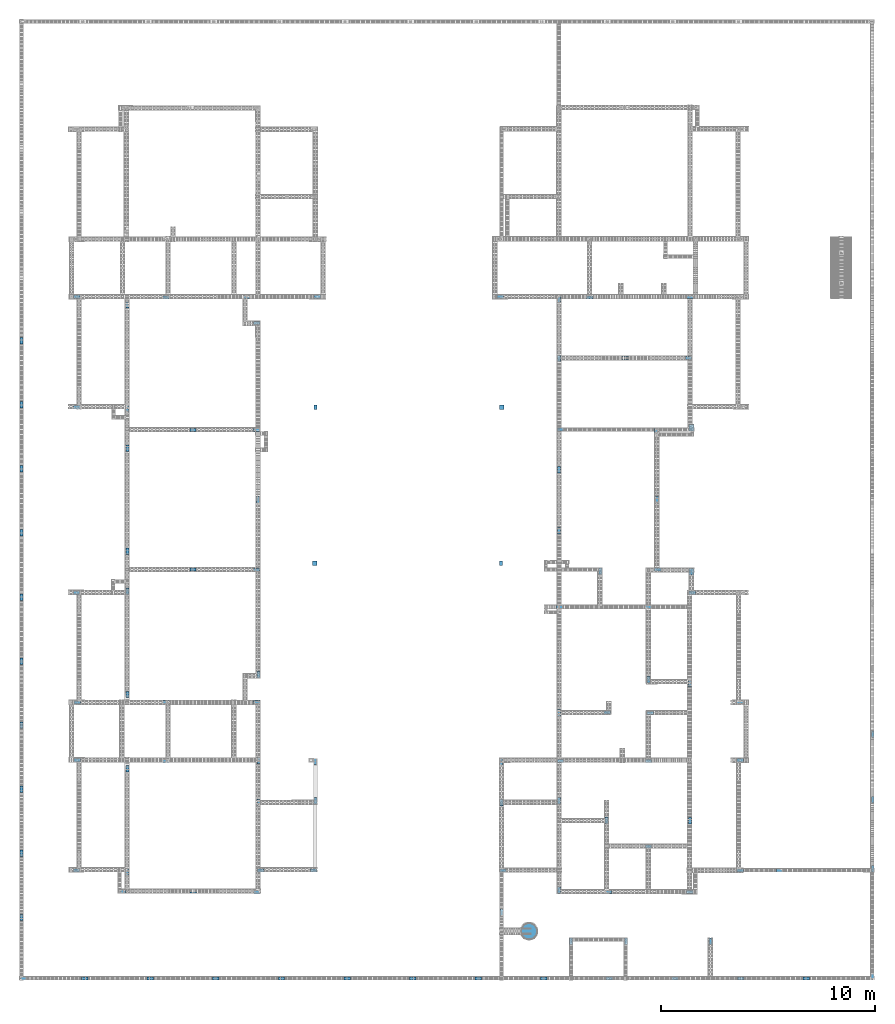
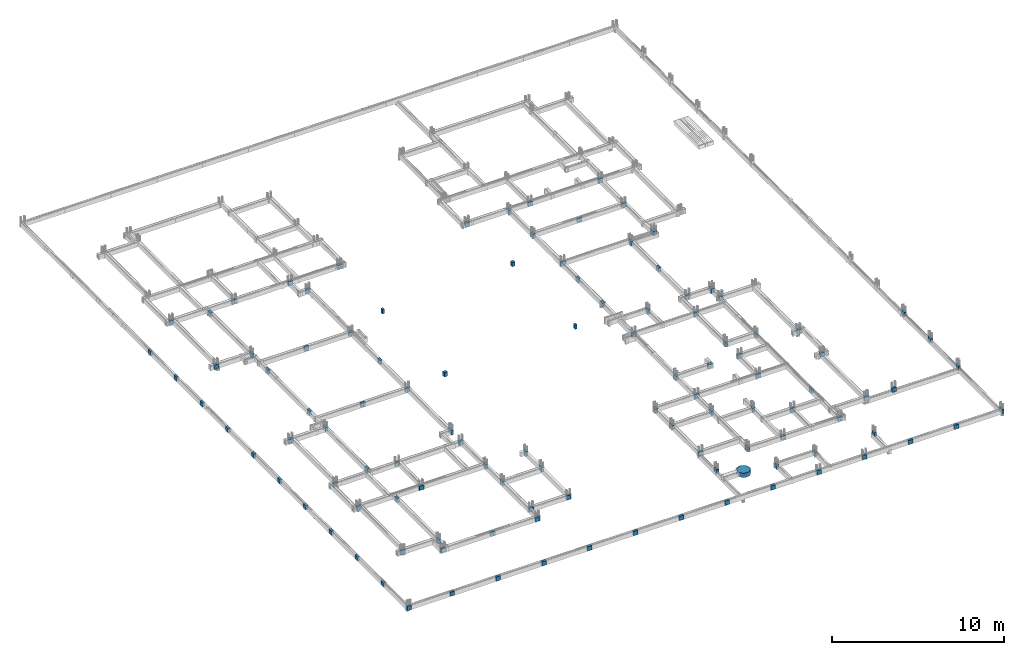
# One storey, part 1 of 150: 112 columns.
"""IFC4 building model written with IfcOpenShell, lengths in centimetres."""

import ifcopenshell
import ifcopenshell.guid

model = None  # the IFC model being written
_history = None  # IfcOwnerHistory: only IFC2X3 demands one
_inside = {}  # id of a spatial element -> (the spatial element, [elements in it])
_under = {}  # id of a project, library or spatial element -> (it, [spatial elements below it])
_declared = {}  # id of a project -> (the project, [libraries it declares])
_typed = {}  # id of a type object -> (the type object, [elements of that type])
_made_of = {}  # id of a material, layer set ... -> (it, [elements and type objects made of it])


def new_model(schema):
    """Start an empty IFC model of exactly this schema.

    Asked for "IFC4X3", IfcOpenShell would pick the latest addendum, in which some entities
    have other attributes; the version numbers below select the first issue.
    IFC2X3 requires an IfcOwnerHistory on every rooted entity: one is made here for all.
    """
    global model, _history
    if schema == "IFC4X3":
        model = ifcopenshell.file(schema_version=(4, 3, 0, 0))
    else:
        model = ifcopenshell.file(schema=schema)
    _inside.clear()
    _under.clear()
    _declared.clear()
    _typed.clear()
    _made_of.clear()
    _history = None
    if model.schema == "IFC2X3":
        org = make("IfcOrganization", Name="unknown")
        user = make(
            "IfcPersonAndOrganization",
            ThePerson=make("IfcPerson", FamilyName="unknown"),
            TheOrganization=org,
        )
        app = make(
            "IfcApplication",
            ApplicationDeveloper=org,
            Version="unknown",
            ApplicationFullName="unknown",
            ApplicationIdentifier="unknown",
        )
        _history = make(
            "IfcOwnerHistory",
            OwningUser=user,
            OwningApplication=app,
            ChangeAction="ADDED",
            CreationDate=0,
        )
    return model


def make(cls, **values):
    """One entity of the class cls with the attributes given. An attribute that is None is left unset."""
    return model.create_entity(
        cls, **{name: value for name, value in values.items() if value is not None}
    )


def rooted(cls, **values):
    """An entity with a GlobalId (a new one), such as an element, a storey or a relation."""
    return make(cls, GlobalId=ifcopenshell.guid.new(), OwnerHistory=_history, **values)


def si_unit(unit_type, name, prefix=None):
    """IfcSIUnit, for example si_unit("LENGTHUNIT", "METRE", prefix="MILLI")."""
    return make("IfcSIUnit", UnitType=unit_type, Prefix=prefix, Name=name)


def derived_unit(unit_type, elements):
    """IfcDerivedUnit: a product of units, each with its exponent."""
    return make(
        "IfcDerivedUnit",
        Elements=[
            make("IfcDerivedUnitElement", Unit=unit, Exponent=power)
            for unit, power in elements
        ],
        UnitType=unit_type,
    )


def assignment(units):
    """IfcUnitAssignment: the units of a project."""
    return None if units is None else make("IfcUnitAssignment", Units=units)


def point(xyz):
    """IfcCartesianPoint."""
    return None if xyz is None else make("IfcCartesianPoint", Coordinates=xyz)


def direction(xyz):
    """IfcDirection."""
    return None if xyz is None else make("IfcDirection", DirectionRatios=xyz)


def frame(location, z_axis=None, x_axis=None):
    """IfcAxis2Placement3D, a coordinate frame: its origin and axes. An axis left out is left unset."""
    return make(
        "IfcAxis2Placement3D",
        Location=point(location),
        Axis=direction(z_axis),
        RefDirection=direction(x_axis),
    )


def frame_2d(location, x_axis=None):
    """IfcAxis2Placement2D, a coordinate frame in the plane: its origin and x axis."""
    return make(
        "IfcAxis2Placement2D", Location=point(location), RefDirection=direction(x_axis)
    )


def origin_with_axes():
    """The frame at (0, 0, 0) with the z axis (0, 0, 1) and the x axis (1, 0, 0) written out."""
    return frame((0.0, 0.0, 0.0), z_axis=(0.0, 0.0, 1.0), x_axis=(1.0, 0.0, 0.0))


def origin_2d_with_axis():
    """The frame at (0, 0) in the plane with the x axis (1, 0) written out."""
    return frame_2d((0.0, 0.0), x_axis=(1.0, 0.0))


def place(relative_to, where):
    """IfcLocalPlacement: puts the frame where relative to a parent placement (None: the world)."""
    return make(
        "IfcLocalPlacement", PlacementRelTo=relative_to, RelativePlacement=where
    )


def context(
    kind, dimensions, precision=None, world=None, true_north=None, identifier=None
):
    """IfcGeometricRepresentationContext, for example the 3D "Model" context."""
    return make(
        "IfcGeometricRepresentationContext",
        ContextIdentifier=identifier,
        ContextType=kind,
        CoordinateSpaceDimension=dimensions,
        Precision=precision,
        WorldCoordinateSystem=world,
        TrueNorth=true_north,
    )


def project(units=None, contexts=None):
    """IfcProject with its units and contexts."""
    return rooted(
        "IfcProject",
        Name="project",
        RepresentationContexts=contexts,
        UnitsInContext=assignment(units),
    )


def spatial(cls, under=None, at=None, **own):
    """A site, building, storey or space (cls), placed at a placement, below another one or the project."""
    s = rooted(cls, ObjectPlacement=at, **own)
    if under is not None:
        _under.setdefault(under.id(), (under, []))[1].append(s)
    return s


def profile(cls, at=None, kind="AREA", **sizes):
    """A parametric profile (cls). Its sizes go by their IFC names, for example OverallWidth=200.0."""
    return make(cls, ProfileType=kind, Position=at, **sizes)


def rectangle(**sizes):
    """IfcRectangleProfileDef."""
    return profile("IfcRectangleProfileDef", **sizes)


def circle(**sizes):
    """IfcCircleProfileDef."""
    return profile("IfcCircleProfileDef", **sizes)


def extrude(swept, where, along, depth):
    """IfcExtrudedAreaSolid: the profile swept, set in the frame where, extruded along a direction by depth."""
    return make(
        "IfcExtrudedAreaSolid",
        SweptArea=swept,
        Position=where,
        ExtrudedDirection=direction(along),
        Depth=depth,
    )


def shape(context_of_items, identifier, shape_type, items):
    """IfcShapeRepresentation: the items that make up one representation, for example the "Body"."""
    return make(
        "IfcShapeRepresentation",
        ContextOfItems=context_of_items,
        RepresentationIdentifier=identifier,
        RepresentationType=shape_type,
        Items=items,
    )


def material(Name=None, Category=None):
    """IfcMaterial."""
    return make("IfcMaterial", Name=Name, Category=Category)


def made_of(thing, what):
    """Note that an element or type object is made of a material, layer set ...; save() writes the relation."""
    if what is not None:
        _made_of.setdefault(what.id(), (what, []))[1].append(thing)
    return thing


def element(
    cls,
    number,
    at=None,
    inside=None,
    cuts=None,
    type_object=None,
    material=None,
    context=None,
    identifier="Body",
    shape_type=None,
    held_by="IfcProductDefinitionShape",
    body=None,
    shapes=None,
    **own,
):
    """One element of the class cls, such as IfcWall. Its Tag is "e" and its number.

    at: its placement. inside: the storey or other place that contains it. cuts: it is an
    opening in that element (IfcRelVoidsElement). A single representation is given by context,
    identifier, shape_type and body (its items); several are given by shapes. held_by: the class
    of the entity that holds the representations. save() writes the other relations.
    """
    e = rooted(cls, Tag="e%d" % number, ObjectPlacement=at, **own)
    if body is not None:
        shapes = [shape(context, identifier, shape_type, body)]
    if shapes is not None:
        e.Representation = make(held_by, Representations=shapes)
    if inside is not None:
        _inside.setdefault(inside.id(), (inside, []))[1].append(e)
    if cuts is not None:
        rooted(
            "IfcRelVoidsElement", RelatingBuildingElement=cuts, RelatedOpeningElement=e
        )
    if type_object is not None:
        _typed.setdefault(type_object.id(), (type_object, []))[1].append(e)
    return made_of(e, material)


def aggregate(whole, parts):
    """IfcRelAggregates: a whole, such as a stair, and the parts it consists of."""
    return rooted("IfcRelAggregates", RelatingObject=whole, RelatedObjects=parts)


def save(model, path):
    """Write the relations noted so far, then the file.

    IfcRelAggregates (storeys below a building ...), IfcRelContainedInSpatialStructure (elements
    in a storey), IfcRelDefinesByType, IfcRelAssociatesMaterial and IfcRelDeclares: one each for
    every whole, place, type object, material and project.
    """
    for whole, parts in _under.values():
        aggregate(whole, parts)
    for where, things in _inside.values():
        rooted(
            "IfcRelContainedInSpatialStructure",
            RelatedElements=things,
            RelatingStructure=where,
        )
    for kind, things in _typed.values():
        rooted("IfcRelDefinesByType", RelatedObjects=things, RelatingType=kind)
    for what, things in _made_of.values():
        rooted("IfcRelAssociatesMaterial", RelatedObjects=things, RelatingMaterial=what)
    for by, libraries in _declared.values():
        rooted("IfcRelDeclares", RelatingContext=by, RelatedDefinitions=libraries)
    model.write(path)


model = new_model("IFC4")

# Units and contexts
model_context = context("Model", 3, precision=1e-05, world=origin_with_axes(), identifier="Body")
ifc_project = project(units=[si_unit("LENGTHUNIT", "METRE", prefix="CENTI"), si_unit("VOLUMEUNIT", "CUBIC_METRE"), si_unit("AREAUNIT", "SQUARE_METRE"), si_unit("POWERUNIT", "WATT"), si_unit("LUMINOUSFLUXUNIT", "LUMEN"), si_unit("ELECTRICCURRENTUNIT", "AMPERE"), si_unit("PRESSUREUNIT", "PASCAL", prefix="KILO"), si_unit("MASSUNIT", "GRAM", prefix="KILO"), si_unit("PLANEANGLEUNIT", "RADIAN"), derived_unit("VOLUMETRICFLOWRATEUNIT", [(si_unit("LENGTHUNIT", "METRE"), 3), (si_unit("TIMEUNIT", "SECOND"), -1)])], contexts=[model_context])

# Site, building, storey
site_placement = place(None, frame((-4000.0, 0.0, 0.0), z_axis=(0.0, 0.0, 1.0), x_axis=(1.0, 0.0, 0.0)))
site = spatial("IfcSite", under=ifc_project, at=site_placement, Name="PADRÃO")
building_placement = place(site_placement, frame((0.0, 0.0, -14.0)))
building = spatial("IfcBuilding", under=site, at=building_placement, Name="CRECHE PRÉ-ESCOLA TIPO 2")
placement = place(building_placement, origin_with_axes())
storey_placement = place(placement, frame((0.0, 0.0, 30.0), z_axis=(0.0, 0.0, 1.0), x_axis=(1.0, 0.0, 0.0)))
storey = spatial("IfcBuildingStorey", under=building, at=storey_placement, Name="VIGA BALDRAME", CompositionType="ELEMENT", Elevation=16.0)

# Columns
ifc_material = material(Name="Concreto")
for number, where, z_axis, x_axis, name in (
    (1, (8.5, 1494.5, 0.0), (0.0, 0.0, 1.0), (1.0, 0.0, 0.0), "P101"),
    (2, (1118.72, 1430.5, 0.0), (0.0, 0.0, 1.0), (1.0, 0.0, 0.0), "P102"),
    (3, (2943.24, 1406.51, 0.0), (0.0, 0.0, 1.0), (1.0, 0.0, 0.0), "P104"),
):
    element("IfcColumn", number, at=place(storey_placement, frame(where, z_axis=z_axis, x_axis=x_axis)), inside=storey, material=ifc_material, Name=name, context=model_context, shape_type="SolidModel", body=[
        extrude(rectangle(XDim=14.0, YDim=30.0, at=origin_2d_with_axis()), origin_with_axes(), (0.0, 0.0, -1.0), 30.0),
    ])
column_1_placement = place(storey_placement, frame((3138.5, 1389.52, 0.0), z_axis=(0.0, 0.0, 1.0), x_axis=(1.0, 0.0, 0.0)))
element("IfcColumn", 4, at=column_1_placement, inside=storey, material=ifc_material, Name="P105", context=model_context, shape_type="SolidModel", body=[
    extrude(rectangle(XDim=14.0, YDim=30.0, at=origin_2d_with_axis()), frame((0.0, 0.0, 0.0), z_axis=(0.0, 0.0, 1.0), x_axis=(-1.0, 0.0, 0.0)), (0.0, 0.0, -1.0), 30.0),
])
column_2_placement = place(storey_placement, frame((269.5, 1301.5, 0.0), z_axis=(0.0, 0.0, 1.0), x_axis=(1.0, 0.0, 0.0)))
element("IfcColumn", 5, at=column_2_placement, inside=storey, material=ifc_material, Name="P106", context=model_context, shape_type="SolidModel", body=[
    extrude(rectangle(XDim=14.0, YDim=30.0, at=origin_2d_with_axis()), frame((0.0, 0.0, 0.0), z_axis=(0.0, 0.0, 1.0), x_axis=(0.0, -1.0, 0.0)), (0.0, 0.0, -1.0), 30.0),
])
column_3_placement = place(storey_placement, frame((503.69, 1338.51, 0.0), z_axis=(0.0, 0.0, 1.0), x_axis=(1.0, 0.0, 0.0)))
element("IfcColumn", 6, at=column_3_placement, inside=storey, material=ifc_material, Name="P107", context=model_context, shape_type="SolidModel", body=[
    extrude(rectangle(XDim=14.0, YDim=30.0, at=origin_2d_with_axis()), origin_with_axes(), (0.0, 0.0, -1.0), 30.0),
])
column_4_placement = place(storey_placement, frame((685.0, 1302.5, 0.0), z_axis=(0.0, 0.0, 1.0), x_axis=(1.0, 0.0, 0.0)))
element("IfcColumn", 7, at=column_4_placement, inside=storey, material=ifc_material, Name="P108", context=model_context, shape_type="SolidModel", body=[
    extrude(rectangle(XDim=14.0, YDim=30.0, at=origin_2d_with_axis()), frame((0.0, 0.0, 0.0), z_axis=(0.0, 0.0, 1.0), x_axis=(0.0, -1.0, 0.0)), (0.0, 0.0, -1.0), 30.0),
])
column_5_placement = place(storey_placement, frame((1109.72, 1302.5, 0.0), z_axis=(0.0, 0.0, 1.0), x_axis=(1.0, 0.0, 0.0)))
element("IfcColumn", 8, at=column_5_placement, inside=storey, material=ifc_material, Name="P109", context=model_context, shape_type="SolidModel", body=[
    extrude(rectangle(XDim=14.0, YDim=30.0, at=origin_2d_with_axis()), frame((0.0, 0.0, 0.0), z_axis=(0.0, 0.0, 1.0), x_axis=(0.0, 1.0, 0.0)), (0.0, 0.0, -1.0), 30.0),
])
column_6_placement = place(storey_placement, frame((2523.5, 1252.08, 0.0), z_axis=(0.0, 0.0, 1.0), x_axis=(1.0, 0.0, 0.0)))
element("IfcColumn", 9, at=column_6_placement, inside=storey, material=ifc_material, Name="P110", context=model_context, shape_type="SolidModel", body=[
    extrude(rectangle(XDim=14.0, YDim=30.0, at=origin_2d_with_axis()), origin_with_axes(), (0.0, 0.0, -1.0), 30.0),
])
for number, where, z_axis, x_axis, name in (
    (10, (2749.74, 1253.51, 0.0), (0.0, 0.0, 1.0), (1.0, 0.0, 0.0), "P111"),
    (11, (2951.24, 1252.52, 0.0), (0.0, 0.0, 1.0), (1.0, 0.0, 0.0), "P112"),
):
    element("IfcColumn", number, at=place(storey_placement, frame(where, z_axis=z_axis, x_axis=x_axis)), inside=storey, material=ifc_material, Name=name, context=model_context, shape_type="SolidModel", body=[
        extrude(rectangle(XDim=14.0, YDim=30.0, at=origin_2d_with_axis()), frame((0.0, 0.0, 0.0), z_axis=(0.0, 0.0, 1.0), x_axis=(0.0, 1.0, 0.0)), (0.0, 0.0, -1.0), 30.0),
    ])
column_7_placement = place(storey_placement, frame((3372.5, 1300.09, 0.0), z_axis=(0.0, 0.0, 1.0), x_axis=(1.0, 0.0, 0.0)))
element("IfcColumn", 12, at=column_7_placement, inside=storey, material=ifc_material, Name="P113", context=model_context, shape_type="SolidModel", body=[
    extrude(rectangle(XDim=17.0, YDim=30.0, at=origin_2d_with_axis()), frame((0.0, 0.0, 0.0), z_axis=(0.0, 0.0, 1.0), x_axis=(0.0, -1.0, 0.0)), (0.0, 0.0, -1.0), 30.0),
])
column_8_placement = place(storey_placement, frame((8.5, 1194.5, 0.0), z_axis=(0.0, 0.0, 1.0), x_axis=(1.0, 0.0, 0.0)))
element("IfcColumn", 13, at=column_8_placement, inside=storey, material=ifc_material, Name="P114", context=model_context, shape_type="SolidModel", body=[
    extrude(rectangle(XDim=14.0, YDim=30.0, at=origin_2d_with_axis()), origin_with_axes(), (0.0, 0.0, -1.0), 30.0),
])
column_9_placement = place(storey_placement, frame((3993.0, 1152.11, 0.0), z_axis=(0.0, 0.0, 1.0), x_axis=(1.0, 0.0, 0.0)))
element("IfcColumn", 14, at=column_9_placement, inside=storey, material=ifc_material, Name="P115", context=model_context, shape_type="SolidModel", body=[
    extrude(rectangle(XDim=14.0, YDim=30.0, at=origin_2d_with_axis()), frame((0.0, 0.0, 0.0), z_axis=(0.0, 0.0, 1.0), x_axis=(-1.0, 0.0, 0.0)), (0.0, 0.0, -1.0), 30.0),
])
column_10_placement = place(storey_placement, frame((269.5, 1030.5, 0.0), z_axis=(0.0, 0.0, 1.0), x_axis=(1.0, 0.0, 0.0)))
element("IfcColumn", 15, at=column_10_placement, inside=storey, material=ifc_material, Name="P116", context=model_context, shape_type="SolidModel", body=[
    extrude(rectangle(XDim=17.0, YDim=30.0, at=origin_2d_with_axis()), frame((0.0, 0.0, 0.0), z_axis=(0.0, 0.0, 1.0), x_axis=(0.0, -1.0, 0.0)), (0.0, 0.0, -1.0), 30.0),
])
column_11_placement = place(storey_placement, frame((503.57, 991.51, 0.0), z_axis=(0.0, 0.0, 1.0), x_axis=(1.0, 0.0, 0.0)))
element("IfcColumn", 16, at=column_11_placement, inside=storey, material=ifc_material, Name="P117", context=model_context, shape_type="SolidModel", body=[
    extrude(rectangle(XDim=14.0, YDim=30.0, at=origin_2d_with_axis()), origin_with_axes(), (0.0, 0.0, -1.0), 30.0),
])
column_12_placement = place(storey_placement, frame((685.0, 1027.51, 0.0), z_axis=(0.0, 0.0, 1.0), x_axis=(1.0, 0.0, 0.0)))
element("IfcColumn", 17, at=column_12_placement, inside=storey, material=ifc_material, Name="P118", context=model_context, shape_type="SolidModel", body=[
    extrude(rectangle(XDim=14.0, YDim=30.0, at=origin_2d_with_axis()), frame((0.0, 0.0, 0.0), z_axis=(0.0, 0.0, 1.0), x_axis=(0.0, -1.0, 0.0)), (0.0, 0.0, -1.0), 30.0),
])
column_13_placement = place(storey_placement, frame((1118.72, 1028.5, 0.0), z_axis=(0.0, 0.0, 1.0), x_axis=(1.0, 0.0, 0.0)))
element("IfcColumn", 18, at=column_13_placement, inside=storey, material=ifc_material, Name="P119", context=model_context, shape_type="SolidModel", body=[
    extrude(rectangle(XDim=14.0, YDim=30.0, at=origin_2d_with_axis()), origin_with_axes(), (0.0, 0.0, -1.0), 30.0),
])
column_14_placement = place(storey_placement, frame((1384.84, 1023.51, 0.0), z_axis=(0.0, 0.0, 1.0), x_axis=(1.0, 0.0, 0.0)))
element("IfcColumn", 19, at=column_14_placement, inside=storey, material=ifc_material, Name="P120", context=model_context, shape_type="SolidModel", body=[
    extrude(rectangle(XDim=14.0, YDim=30.0, at=origin_2d_with_axis()), frame((0.0, 0.0, 0.0), z_axis=(0.0, 0.0, 1.0), x_axis=(-1.0, 0.0, 0.0)), (0.0, 0.0, -1.0), 30.0),
])
column_15_placement = place(storey_placement, frame((2254.49, 1023.51, 0.0), z_axis=(0.0, 0.0, 1.0), x_axis=(1.0, 0.0, 0.0)))
element("IfcColumn", 20, at=column_15_placement, inside=storey, material=ifc_material, Name="P121", context=model_context, shape_type="SolidModel", body=[
    extrude(rectangle(XDim=14.0, YDim=30.0, at=origin_2d_with_axis()), origin_with_axes(), (0.0, 0.0, -1.0), 30.0),
])
for number, where, z_axis, x_axis, name in (
    (21, (2531.5, 1027.52, 0.0), (0.0, 0.0, 1.0), (1.0, 0.0, 0.0), "P122"),
    (22, (2943.24, 1027.52, 0.0), (0.0, 0.0, 1.0), (1.0, 0.0, 0.0), "P123"),
):
    element("IfcColumn", number, at=place(storey_placement, frame(where, z_axis=z_axis, x_axis=x_axis)), inside=storey, material=ifc_material, Name=name, context=model_context, shape_type="SolidModel", body=[
        extrude(rectangle(XDim=14.0, YDim=30.0, at=origin_2d_with_axis()), frame((0.0, 0.0, 0.0), z_axis=(0.0, 0.0, 1.0), x_axis=(0.0, 1.0, 0.0)), (0.0, 0.0, -1.0), 30.0),
    ])
column_16_placement = place(storey_placement, frame((3372.5, 1030.08, 0.0), z_axis=(0.0, 0.0, 1.0), x_axis=(1.0, 0.0, 0.0)))
element("IfcColumn", 23, at=column_16_placement, inside=storey, material=ifc_material, Name="P124", context=model_context, shape_type="SolidModel", body=[
    extrude(rectangle(XDim=17.0, YDim=30.0, at=origin_2d_with_axis()), frame((0.0, 0.0, 0.0), z_axis=(0.0, 0.0, 1.0), x_axis=(0.0, -1.0, 0.0)), (0.0, 0.0, -1.0), 30.0),
])
for number, where, z_axis, x_axis, name in (
    (24, (8.5, 894.5, 0.0), (0.0, 0.0, 1.0), (1.0, 0.0, 0.0), "P125"),
    (25, (1118.72, 833.5, 0.0), (0.0, 0.0, 1.0), (1.0, 0.0, 0.0), "P126"),
    (26, (1384.84, 841.1, 0.0), (0.0, 0.0, 1.0), (1.0, 0.0, 0.0), "P127"),
    (27, (2254.49, 832.52, 0.0), (0.0, 0.0, 1.0), (1.0, 0.0, 0.0), "P128"),
    (28, (2523.5, 841.52, 0.0), (0.0, 0.0, 1.0), (1.0, 0.0, 0.0), "P129"),
):
    element("IfcColumn", number, at=place(storey_placement, frame(where, z_axis=z_axis, x_axis=x_axis)), inside=storey, material=ifc_material, Name=name, context=model_context, shape_type="SolidModel", body=[
        extrude(rectangle(XDim=14.0, YDim=30.0, at=origin_2d_with_axis()), origin_with_axes(), (0.0, 0.0, -1.0), 30.0),
    ])
column_17_placement = place(storey_placement, frame((3993.0, 846.11, 0.0), z_axis=(0.0, 0.0, 1.0), x_axis=(1.0, 0.0, 0.0)))
element("IfcColumn", 29, at=column_17_placement, inside=storey, material=ifc_material, Name="P130", context=model_context, shape_type="SolidModel", body=[
    extrude(rectangle(XDim=14.0, YDim=30.0, at=origin_2d_with_axis()), frame((0.0, 0.0, 0.0), z_axis=(0.0, 0.0, 1.0), x_axis=(-1.0, 0.0, 0.0)), (0.0, 0.0, -1.0), 30.0),
])
for number, where, z_axis, x_axis, name in (
    (30, (2747.52, 749.08, 0.0), (0.0, 0.0, 1.0), (1.0, 0.0, 0.0), "P131"),
    (31, (3138.5, 746.58, 0.0), (0.0, 0.0, 1.0), (1.0, 0.0, 0.0), "P132"),
    (32, (8.5, 594.5, 0.0), (0.0, 0.0, 1.0), (1.0, 0.0, 0.0), "P133"),
):
    element("IfcColumn", number, at=place(storey_placement, frame(where, z_axis=z_axis, x_axis=x_axis)), inside=storey, material=ifc_material, Name=name, context=model_context, shape_type="SolidModel", body=[
        extrude(rectangle(XDim=14.0, YDim=30.0, at=origin_2d_with_axis()), origin_with_axes(), (0.0, 0.0, -1.0), 30.0),
    ])
column_18_placement = place(storey_placement, frame((2943.45, 627.58, 0.0), z_axis=(0.0, 0.0, 1.0), x_axis=(1.0, 0.0, 0.0)))
element("IfcColumn", 33, at=column_18_placement, inside=storey, material=ifc_material, Name="P134", context=model_context, shape_type="SolidModel", body=[
    extrude(rectangle(XDim=14.0, YDim=30.0, at=origin_2d_with_axis()), frame((0.0, 0.0, 0.0), z_axis=(0.0, 0.0, 1.0), x_axis=(0.0, 1.0, 0.0)), (0.0, 0.0, -1.0), 30.0),
])
column_19_placement = place(storey_placement, frame((266.0, 515.0, 0.0), z_axis=(0.0, 0.0, 1.0), x_axis=(1.0, 0.0, 0.0)))
element("IfcColumn", 34, at=column_19_placement, inside=storey, material=ifc_material, Name="P135", context=model_context, shape_type="SolidModel", body=[
    extrude(rectangle(XDim=14.0, YDim=30.0, at=origin_2d_with_axis()), frame((0.0, 0.0, 0.0), z_axis=(0.0, 0.0, 1.0), x_axis=(0.0, -1.0, 0.0)), (0.0, 0.0, -1.0), 30.0),
])
column_20_placement = place(storey_placement, frame((503.57, 508.51, 0.0), z_axis=(0.0, 0.0, 1.0), x_axis=(1.0, 0.0, 0.0)))
element("IfcColumn", 35, at=column_20_placement, inside=storey, material=ifc_material, Name="P136", context=model_context, shape_type="SolidModel", body=[
    extrude(rectangle(XDim=14.0, YDim=30.0, at=origin_2d_with_axis()), origin_with_axes(), (0.0, 0.0, -1.0), 30.0),
])
for number, where, z_axis, x_axis, name in (
    (36, (1127.72, 515.01, 0.0), (0.0, 0.0, 1.0), (1.0, 0.0, 0.0), "P137"),
    (37, (1376.84, 515.01, 0.0), (0.0, 0.0, 1.0), (1.0, 0.0, 0.0), "P138"),
):
    element("IfcColumn", number, at=place(storey_placement, frame(where, z_axis=z_axis, x_axis=x_axis)), inside=storey, material=ifc_material, Name=name, context=model_context, shape_type="SolidModel", body=[
        extrude(rectangle(XDim=14.0, YDim=30.0, at=origin_2d_with_axis()), frame((0.0, 0.0, 0.0), z_axis=(0.0, 0.0, 1.0), x_axis=(0.0, -1.0, 0.0)), (0.0, 0.0, -1.0), 30.0),
    ])
for number, where, z_axis, x_axis, name in (
    (38, (2262.48, 513.52, 0.0), (0.0, 0.0, 1.0), (1.0, 0.0, 0.0), "P139"),
    (39, (3372.5, 515.01, 0.0), (0.0, 0.0, 1.0), (1.0, 0.0, 0.0), "P140"),
):
    element("IfcColumn", number, at=place(storey_placement, frame(where, z_axis=z_axis, x_axis=x_axis)), inside=storey, material=ifc_material, Name=name, context=model_context, shape_type="SolidModel", body=[
        extrude(rectangle(XDim=14.0, YDim=30.0, at=origin_2d_with_axis()), frame((0.0, 0.0, 0.0), z_axis=(0.0, 0.0, 1.0), x_axis=(0.0, 1.0, 0.0)), (0.0, 0.0, -1.0), 30.0),
    ])
column_21_placement = place(storey_placement, frame((3556.0, 514.52, 0.0), z_axis=(0.0, 0.0, 1.0), x_axis=(1.0, 0.0, 0.0)))
element("IfcColumn", 40, at=column_21_placement, inside=storey, material=ifc_material, Name="P141", context=model_context, shape_type="SolidModel", body=[
    extrude(rectangle(XDim=14.0, YDim=30.0, at=origin_2d_with_axis()), frame((0.0, 0.0, 0.0), z_axis=(0.0, 0.0, 1.0), x_axis=(0.0, -1.0, 0.0)), (0.0, 0.0, -1.0), 30.0),
])
column_22_placement = place(storey_placement, frame((3993.0, 522.51, 0.0), z_axis=(0.0, 0.0, 1.0), x_axis=(1.0, 0.0, 0.0)))
element("IfcColumn", 41, at=column_22_placement, inside=storey, material=ifc_material, Name="P142", context=model_context, shape_type="SolidModel", body=[
    extrude(rectangle(XDim=14.0, YDim=30.0, at=origin_2d_with_axis()), frame((0.0, 0.0, 0.0), z_axis=(0.0, 0.0, 1.0), x_axis=(-1.0, 0.0, 0.0)), (0.0, 0.0, -1.0), 30.0),
])
for number, where, z_axis, x_axis, name in (
    (42, (480.0, 416.0, 0.0), (0.0, 0.0, 1.0), (1.0, 0.0, 0.0), "P143"),
    (43, (811.79, 416.0, 0.0), (0.0, 0.0, 1.0), (1.0, 0.0, 0.0), "P144"),
    (44, (1110.72, 415.01, 0.0), (0.0, 0.0, 1.0), (1.0, 0.0, 0.0), "P145"),
):
    element("IfcColumn", number, at=place(storey_placement, frame(where, z_axis=z_axis, x_axis=x_axis)), inside=storey, material=ifc_material, Name=name, context=model_context, shape_type="SolidModel", body=[
        extrude(rectangle(XDim=14.0, YDim=30.0, at=origin_2d_with_axis()), frame((0.0, 0.0, 0.0), z_axis=(0.0, 0.0, 1.0), x_axis=(0.0, -1.0, 0.0)), (0.0, 0.0, -1.0), 30.0),
    ])
column_23_placement = place(storey_placement, frame((2523.5, 423.02, 0.0), z_axis=(0.0, 0.0, 1.0), x_axis=(1.0, 0.0, 0.0)))
element("IfcColumn", 45, at=column_23_placement, inside=storey, material=ifc_material, Name="P146", context=model_context, shape_type="SolidModel", body=[
    extrude(rectangle(XDim=14.0, YDim=30.0, at=origin_2d_with_axis()), origin_with_axes(), (0.0, 0.0, -1.0), 30.0),
])
for number, where, z_axis, x_axis, name in (
    (46, (2756.46, 415.01, 0.0), (0.0, 0.0, 1.0), (1.0, 0.0, 0.0), "P147"),
    (47, (3136.0, 415.01, 0.0), (0.0, 0.0, 1.0), (1.0, 0.0, 0.0), "P148"),
):
    element("IfcColumn", number, at=place(storey_placement, frame(where, z_axis=z_axis, x_axis=x_axis)), inside=storey, material=ifc_material, Name=name, context=model_context, shape_type="SolidModel", body=[
        extrude(rectangle(XDim=14.0, YDim=30.0, at=origin_2d_with_axis()), frame((0.0, 0.0, 0.0), z_axis=(0.0, 0.0, 1.0), x_axis=(0.0, 1.0, 0.0)), (0.0, 0.0, -1.0), 30.0),
    ])
for number, where, z_axis, x_axis, name in (
    (48, (8.5, 294.5, 0.0), (0.0, 0.0, 1.0), (1.0, 0.0, 0.0), "P149"),
    (49, (2255.98, 319.02, 0.0), (0.0, 0.0, 1.0), (1.0, 0.0, 0.0), "P150"),
):
    element("IfcColumn", number, at=place(storey_placement, frame(where, z_axis=z_axis, x_axis=x_axis)), inside=storey, material=ifc_material, Name=name, context=model_context, shape_type="SolidModel", body=[
        extrude(rectangle(XDim=14.0, YDim=30.0, at=origin_2d_with_axis()), origin_with_axes(), (0.0, 0.0, -1.0), 30.0),
    ])
column_24_placement = place(storey_placement, frame((2385.28, 229.39, 0.0), z_axis=(0.0, 0.0, 1.0), x_axis=(1.0, 0.0, 0.0)))
element("IfcColumn", 50, at=column_24_placement, inside=storey, material=ifc_material, Name="P151", context=model_context, shape_type="SolidModel", body=[
    extrude(circle(Radius=40.0, at=origin_2d_with_axis()), origin_with_axes(), (0.0, 0.0, -1.0), 30.0),
])
for number, where, z_axis, x_axis, name in (
    (51, (2581.46, 182.5, 0.0), (0.0, 0.0, 1.0), (1.0, 0.0, 0.0), "P152"),
    (52, (2837.49, 182.5, 0.0), (0.0, 0.0, 1.0), (1.0, 0.0, 0.0), "P153"),
):
    element("IfcColumn", number, at=place(storey_placement, frame(where, z_axis=z_axis, x_axis=x_axis)), inside=storey, material=ifc_material, Name=name, context=model_context, shape_type="SolidModel", body=[
        extrude(rectangle(XDim=14.0, YDim=30.0, at=origin_2d_with_axis()), frame((0.0, 0.0, 0.0), z_axis=(0.0, 0.0, 1.0), x_axis=(-1.0, 0.0, 0.0)), (0.0, 0.0, -1.0), 30.0),
    ])
column_25_placement = place(storey_placement, frame((3233.99, 182.5, 0.0), z_axis=(0.0, 0.0, 1.0), x_axis=(1.0, 0.0, 0.0)))
element("IfcColumn", 53, at=column_25_placement, inside=storey, material=ifc_material, Name="P154", context=model_context, shape_type="SolidModel", body=[
    extrude(rectangle(XDim=14.0, YDim=30.0, at=origin_2d_with_axis()), origin_with_axes(), (0.0, 0.0, -1.0), 30.0),
])
for number, where, z_axis, x_axis, name in (
    (54, (16.5, 9.0, 0.0), (0.0, 0.0, 1.0), (1.0, 0.0, 0.0), "P155"),
    (55, (304.5, 9.01, 0.0), (0.0, 0.0, 1.0), (1.0, 0.0, 0.0), "P156"),
    (56, (611.5, 9.0, 0.0), (0.0, 0.0, 1.0), (1.0, 0.0, 0.0), "P157"),
    (57, (918.5, 9.0, 0.0), (0.0, 0.0, 1.0), (1.0, 0.0, 0.0), "P158"),
    (58, (1225.5, 9.0, 0.0), (0.0, 0.0, 1.0), (1.0, 0.0, 0.0), "P159"),
    (59, (1532.5, 9.0, 0.0), (0.0, 0.0, 1.0), (1.0, 0.0, 0.0), "P160"),
    (60, (1839.5, 9.0, 0.0), (0.0, 0.0, 1.0), (1.0, 0.0, 0.0), "P161"),
    (61, (2146.5, 9.0, 0.0), (0.0, 0.0, 1.0), (1.0, 0.0, 0.0), "P162"),
    (62, (2453.5, 9.0, 0.0), (0.0, 0.0, 1.0), (1.0, 0.0, 0.0), "P163"),
    (63, (2760.5, 9.0, 0.0), (0.0, 0.0, 1.0), (1.0, 0.0, 0.0), "P164"),
    (64, (3067.5, 9.0, 0.0), (0.0, 0.0, 1.0), (1.0, 0.0, 0.0), "P165"),
    (65, (3374.5, 9.0, 0.0), (0.0, 0.0, 1.0), (1.0, 0.0, 0.0), "P166"),
    (66, (3681.5, 9.0, 0.0), (0.0, 0.0, 1.0), (1.0, 0.0, 0.0), "P167"),
):
    element("IfcColumn", number, at=place(storey_placement, frame(where, z_axis=z_axis, x_axis=x_axis)), inside=storey, material=ifc_material, Name=name, context=model_context, shape_type="SolidModel", body=[
        extrude(rectangle(XDim=14.0, YDim=30.0, at=origin_2d_with_axis()), frame((0.0, 0.0, 0.0), z_axis=(0.0, 0.0, 1.0), x_axis=(0.0, 1.0, 0.0)), (0.0, 0.0, -1.0), 30.0),
    ])
column_26_placement = place(storey_placement, frame((3992.0, 17.0, 0.0), z_axis=(0.0, 0.0, 1.0), x_axis=(1.0, 0.0, 0.0)))
element("IfcColumn", 67, at=column_26_placement, inside=storey, material=ifc_material, Name="P168", context=model_context, shape_type="SolidModel", body=[
    extrude(rectangle(XDim=14.0, YDim=30.0, at=origin_2d_with_axis()), frame((0.0, 0.0, 0.0), z_axis=(0.0, 0.0, 1.0), x_axis=(-1.0, 0.0, 0.0)), (0.0, 0.0, -1.0), 30.0),
])
column_27_placement = place(storey_placement, frame((267.0, 3200.5, 0.0), z_axis=(0.0, 0.0, 1.0), x_axis=(1.0, 0.0, 0.0)))
element("IfcColumn", 68, at=column_27_placement, inside=storey, material=ifc_material, Name="P47", context=model_context, shape_type="SolidModel", body=[
    extrude(rectangle(XDim=17.0, YDim=30.0, at=origin_2d_with_axis()), frame((0.0, 0.0, 0.0), z_axis=(0.0, 0.0, 1.0), x_axis=(0.0, -1.0, 0.0)), (0.0, 0.0, -1.0), 30.0),
])
column_28_placement = place(storey_placement, frame((503.69, 3161.5, 0.0), z_axis=(0.0, 0.0, 1.0), x_axis=(1.0, 0.0, 0.0)))
element("IfcColumn", 69, at=column_28_placement, inside=storey, material=ifc_material, Name="P48", context=model_context, shape_type="SolidModel", body=[
    extrude(rectangle(XDim=14.0, YDim=30.0, at=origin_2d_with_axis()), origin_with_axes(), (0.0, 0.0, -1.0), 30.0),
])
for number, where, z_axis, x_axis, name in (
    (70, (685.0, 3197.49, 0.0), (0.0, 0.0, 1.0), (1.0, 0.0, 0.0), "P49"),
    (71, (1061.0, 3197.49, 0.0), (0.0, 0.0, 1.0), (1.0, 0.0, 0.0), "P50"),
):
    element("IfcColumn", number, at=place(storey_placement, frame(where, z_axis=z_axis, x_axis=x_axis)), inside=storey, material=ifc_material, Name=name, context=model_context, shape_type="SolidModel", body=[
        extrude(rectangle(XDim=14.0, YDim=30.0, at=origin_2d_with_axis()), frame((0.0, 0.0, 0.0), z_axis=(0.0, 0.0, 1.0), x_axis=(0.0, -1.0, 0.0)), (0.0, 0.0, -1.0), 30.0),
    ])
for number, where, z_axis, x_axis, name in (
    (72, (1393.25, 3200.02, 0.0), (0.0, 0.0, 1.0), (1.0, 0.0, 0.0), "P51"),
    (73, (2248.76, 3200.02, 0.0), (0.0, 0.0, 1.0), (1.0, 0.0, 0.0), "P52"),
):
    element("IfcColumn", number, at=place(storey_placement, frame(where, z_axis=z_axis, x_axis=x_axis)), inside=storey, material=ifc_material, Name=name, context=model_context, shape_type="SolidModel", body=[
        extrude(rectangle(XDim=17.0, YDim=30.0, at=origin_2d_with_axis()), frame((0.0, 0.0, 0.0), z_axis=(0.0, 0.0, 1.0), x_axis=(0.0, -1.0, 0.0)), (0.0, 0.0, -1.0), 30.0),
    ])
column_29_placement = place(storey_placement, frame((2523.5, 3189.52, 0.0), z_axis=(0.0, 0.0, 1.0), x_axis=(1.0, 0.0, 0.0)))
element("IfcColumn", 74, at=column_29_placement, inside=storey, material=ifc_material, Name="P53", context=model_context, shape_type="SolidModel", body=[
    extrude(rectangle(XDim=14.0, YDim=30.0, at=origin_2d_with_axis()), origin_with_axes(), (0.0, 0.0, -1.0), 30.0),
])
for number, where, z_axis, x_axis, name in (
    (75, (2668.0, 3197.52, 0.0), (0.0, 0.0, 1.0), (1.0, 0.0, 0.0), "P54"),
    (76, (3138.5, 3197.52, 0.0), (0.0, 0.0, 1.0), (1.0, 0.0, 0.0), "P55"),
):
    element("IfcColumn", number, at=place(storey_placement, frame(where, z_axis=z_axis, x_axis=x_axis)), inside=storey, material=ifc_material, Name=name, context=model_context, shape_type="SolidModel", body=[
        extrude(rectangle(XDim=14.0, YDim=30.0, at=origin_2d_with_axis()), frame((0.0, 0.0, 0.0), z_axis=(0.0, 0.0, 1.0), x_axis=(0.0, -1.0, 0.0)), (0.0, 0.0, -1.0), 30.0),
    ])
column_30_placement = place(storey_placement, frame((1109.72, 3076.5, 0.0), z_axis=(0.0, 0.0, 1.0), x_axis=(1.0, 0.0, 0.0)))
element("IfcColumn", 77, at=column_30_placement, inside=storey, material=ifc_material, Name="P58", context=model_context, shape_type="SolidModel", body=[
    extrude(rectangle(XDim=14.0, YDim=30.0, at=origin_2d_with_axis()), frame((0.0, 0.0, 0.0), z_axis=(0.0, 0.0, 1.0), x_axis=(0.0, 1.0, 0.0)), (0.0, 0.0, -1.0), 30.0),
])
for number, where, z_axis, x_axis, name in (
    (78, (8.5, 2994.5, 0.0), (0.0, 0.0, 1.0), (1.0, 0.0, 0.0), "P59"),
    (79, (2523.5, 2911.02, 0.0), (0.0, 0.0, 1.0), (1.0, 0.0, 0.0), "P60"),
):
    element("IfcColumn", number, at=place(storey_placement, frame(where, z_axis=z_axis, x_axis=x_axis)), inside=storey, material=ifc_material, Name=name, context=model_context, shape_type="SolidModel", body=[
        extrude(rectangle(XDim=14.0, YDim=30.0, at=origin_2d_with_axis()), origin_with_axes(), (0.0, 0.0, -1.0), 30.0),
    ])
for number, where, z_axis, x_axis, name in (
    (80, (2834.0, 2912.52, 0.0), (0.0, 0.0, 1.0), (1.0, 0.0, 0.0), "P61"),
    (81, (3130.5, 2912.52, 0.0), (0.0, 0.0, 1.0), (1.0, 0.0, 0.0), "P62"),
):
    element("IfcColumn", number, at=place(storey_placement, frame(where, z_axis=z_axis, x_axis=x_axis)), inside=storey, material=ifc_material, Name=name, context=model_context, shape_type="SolidModel", body=[
        extrude(rectangle(XDim=14.0, YDim=30.0, at=origin_2d_with_axis()), frame((0.0, 0.0, 0.0), z_axis=(0.0, 0.0, 1.0), x_axis=(0.0, -1.0, 0.0)), (0.0, 0.0, -1.0), 30.0),
    ])
column_31_placement = place(storey_placement, frame((8.5, 2694.5, 0.0), z_axis=(0.0, 0.0, 1.0), x_axis=(1.0, 0.0, 0.0)))
element("IfcColumn", 82, at=column_31_placement, inside=storey, material=ifc_material, Name="P64", context=model_context, shape_type="SolidModel", body=[
    extrude(rectangle(XDim=14.0, YDim=30.0, at=origin_2d_with_axis()), origin_with_axes(), (0.0, 0.0, -1.0), 30.0),
])
column_32_placement = place(storey_placement, frame((268.0, 2683.51, 0.0), z_axis=(0.0, 0.0, 1.0), x_axis=(1.0, 0.0, 0.0)))
element("IfcColumn", 83, at=column_32_placement, inside=storey, material=ifc_material, Name="P65", context=model_context, shape_type="SolidModel", body=[
    extrude(rectangle(XDim=17.0, YDim=30.0, at=origin_2d_with_axis()), frame((0.0, 0.0, 0.0), z_axis=(0.0, 0.0, 1.0), x_axis=(0.0, -1.0, 0.0)), (0.0, 0.0, -1.0), 30.0),
])
column_33_placement = place(storey_placement, frame((503.69, 2677.01, 0.0), z_axis=(0.0, 0.0, 1.0), x_axis=(1.0, 0.0, 0.0)))
element("IfcColumn", 84, at=column_33_placement, inside=storey, material=ifc_material, Name="P66", context=model_context, shape_type="SolidModel", body=[
    extrude(rectangle(XDim=14.0, YDim=30.0, at=origin_2d_with_axis()), origin_with_axes(), (0.0, 0.0, -1.0), 30.0),
])
column_34_placement = place(storey_placement, frame((1385.25, 2683.51, 0.0), z_axis=(0.0, 0.0, 1.0), x_axis=(1.0, 0.0, 0.0)))
element("IfcColumn", 85, at=column_34_placement, inside=storey, material=ifc_material, Name="P67", context=model_context, shape_type="SolidModel", body=[
    extrude(rectangle(XDim=14.0, YDim=20.0, at=origin_2d_with_axis()), frame((0.0, 0.0, 0.0), z_axis=(0.0, 0.0, 1.0), x_axis=(-1.0, 0.0, 0.0)), (0.0, 0.0, -1.0), 30.0),
])
column_35_placement = place(storey_placement, frame((2256.49, 2683.51, 30.0), z_axis=(0.0, 0.0, 1.0), x_axis=(1.0, 0.0, 0.0)))
element("IfcColumn", 86, at=column_35_placement, inside=storey, material=ifc_material, Name="P68", context=model_context, shape_type="SolidModel", body=[
    extrude(rectangle(XDim=20.0, YDim=20.0, at=origin_2d_with_axis()), frame((0.0, 0.0, 0.0), z_axis=(0.0, 0.0, 1.0), x_axis=(-1.0, 0.0, 0.0)), (0.0, 0.0, -1.0), 30.0),
])
column_36_placement = place(storey_placement, frame((811.39, 2577.5, 0.0), z_axis=(0.0, 0.0, 1.0), x_axis=(1.0, 0.0, 0.0)))
element("IfcColumn", 87, at=column_36_placement, inside=storey, material=ifc_material, Name="P70", context=model_context, shape_type="SolidModel", body=[
    extrude(rectangle(XDim=14.0, YDim=30.0, at=origin_2d_with_axis()), frame((0.0, 0.0, 0.0), z_axis=(0.0, 0.0, 1.0), x_axis=(0.0, -1.0, 0.0)), (0.0, 0.0, -1.0), 30.0),
])
column_37_placement = place(storey_placement, frame((1109.72, 2577.5, 0.0), z_axis=(0.0, 0.0, 1.0), x_axis=(1.0, 0.0, 0.0)))
element("IfcColumn", 88, at=column_37_placement, inside=storey, material=ifc_material, Name="P71", context=model_context, shape_type="SolidModel", body=[
    extrude(rectangle(XDim=14.0, YDim=30.0, at=origin_2d_with_axis()), frame((0.0, 0.0, 0.0), z_axis=(0.0, 0.0, 1.0), x_axis=(0.0, 1.0, 0.0)), (0.0, 0.0, -1.0), 30.0),
])
column_38_placement = place(storey_placement, frame((2531.5, 2578.52, 0.0), z_axis=(0.0, 0.0, 1.0), x_axis=(1.0, 0.0, 0.0)))
element("IfcColumn", 89, at=column_38_placement, inside=storey, material=ifc_material, Name="P72", context=model_context, shape_type="SolidModel", body=[
    extrude(rectangle(XDim=14.0, YDim=30.0, at=origin_2d_with_axis()), frame((0.0, 0.0, 0.0), z_axis=(0.0, 0.0, 1.0), x_axis=(0.0, -1.0, 0.0)), (0.0, 0.0, -1.0), 30.0),
])
column_39_placement = place(storey_placement, frame((2979.5, 2566.02, 0.0), z_axis=(0.0, 0.0, 1.0), x_axis=(1.0, 0.0, 0.0)))
element("IfcColumn", 90, at=column_39_placement, inside=storey, material=ifc_material, Name="P73", context=model_context, shape_type="SolidModel", body=[
    extrude(rectangle(XDim=14.0, YDim=35.0, at=origin_2d_with_axis()), origin_with_axes(), (0.0, 0.0, -1.0), 30.0),
])
column_40_placement = place(storey_placement, frame((3145.02, 2586.52, 0.0), z_axis=(0.0, 0.0, 1.0), x_axis=(1.0, 0.0, 0.0)))
element("IfcColumn", 91, at=column_40_placement, inside=storey, material=ifc_material, Name="P74", context=model_context, shape_type="SolidModel", body=[
    extrude(rectangle(XDim=24.0, YDim=30.0, at=origin_2d_with_axis()), origin_with_axes(), (0.0, 0.0, -1.0), 30.0),
])
for number, where, z_axis, x_axis, name in (
    (92, (503.69, 2491.5, 0.0), (0.0, 0.0, 1.0), (1.0, 0.0, 0.0), "P75"),
    (93, (8.5, 2394.5, 0.0), (0.0, 0.0, 1.0), (1.0, 0.0, 0.0), "P77"),
    (94, (2523.5, 2390.27, 0.0), (0.0, 0.0, 1.0), (1.0, 0.0, 0.0), "P78"),
    (95, (1116.0, 2250.0, 0.0), (0.0, 0.0, 1.0), (1.0, 0.0, 0.0), "P79"),
    (96, (2983.0, 2251.77, 0.0), (0.0, 0.0, 1.0), (1.0, 0.0, 0.0), "P80"),
    (97, (8.5, 2094.5, 0.0), (0.0, 0.0, 1.0), (1.0, 0.0, 0.0), "P82"),
    (98, (2524.49, 2105.52, 0.0), (0.0, 0.0, 1.0), (1.0, 0.0, 0.0), "P83"),
    (99, (503.69, 2008.5, 0.0), (0.0, 0.0, 1.0), (1.0, 0.0, 0.0), "P84"),
):
    element("IfcColumn", number, at=place(storey_placement, frame(where, z_axis=z_axis, x_axis=x_axis)), inside=storey, material=ifc_material, Name=name, context=model_context, shape_type="SolidModel", body=[
        extrude(rectangle(XDim=14.0, YDim=30.0, at=origin_2d_with_axis()), origin_with_axes(), (0.0, 0.0, -1.0), 30.0),
    ])
for number, where, z_axis, x_axis, name in (
    (100, (811.39, 1922.5, 0.0), (0.0, 0.0, 1.0), (1.0, 0.0, 0.0), "P86"),
    (101, (1109.72, 1922.5, 0.0), (0.0, 0.0, 1.0), (1.0, 0.0, 0.0), "P87"),
):
    element("IfcColumn", number, at=place(storey_placement, frame(where, z_axis=z_axis, x_axis=x_axis)), inside=storey, material=ifc_material, Name=name, context=model_context, shape_type="SolidModel", body=[
        extrude(rectangle(XDim=14.0, YDim=30.0, at=origin_2d_with_axis()), frame((0.0, 0.0, 0.0), z_axis=(0.0, 0.0, 1.0), x_axis=(0.0, -1.0, 0.0)), (0.0, 0.0, -1.0), 30.0),
    ])
column_41_placement = place(storey_placement, frame((1380.84, 1952.5, 0.0), z_axis=(0.0, 0.0, 1.0), x_axis=(1.0, 0.0, 0.0)))
element("IfcColumn", 102, at=column_41_placement, inside=storey, material=ifc_material, Name="P88", context=model_context, shape_type="SolidModel", body=[
    extrude(rectangle(XDim=20.0, YDim=20.0, at=origin_2d_with_axis()), origin_with_axes(), (0.0, 0.0, -1.0), 30.0),
])
column_42_placement = place(storey_placement, frame((2253.49, 1952.5, 30.0), z_axis=(0.0, 0.0, 1.0), x_axis=(1.0, 0.0, 0.0)))
element("IfcColumn", 103, at=column_42_placement, inside=storey, material=ifc_material, Name="P89", context=model_context, shape_type="SolidModel", body=[
    extrude(rectangle(XDim=14.0, YDim=20.0, at=origin_2d_with_axis()), frame((0.0, 0.0, 0.0), z_axis=(0.0, 0.0, 1.0), x_axis=(-1.0, 0.0, 0.0)), (0.0, 0.0, -1.0), 30.0),
])
column_43_placement = place(storey_placement, frame((2718.75, 1914.52, 0.0), z_axis=(0.0, 0.0, 1.0), x_axis=(1.0, 0.0, 0.0)))
element("IfcColumn", 104, at=column_43_placement, inside=storey, material=ifc_material, Name="P90", context=model_context, shape_type="SolidModel", body=[
    extrude(rectangle(XDim=14.0, YDim=30.0, at=origin_2d_with_axis()), origin_with_axes(), (0.0, 0.0, -1.0), 30.0),
])
column_44_placement = place(storey_placement, frame((2987.5, 1922.52, 0.0), z_axis=(0.0, 0.0, 1.0), x_axis=(1.0, 0.0, 0.0)))
element("IfcColumn", 105, at=column_44_placement, inside=storey, material=ifc_material, Name="P91", context=model_context, shape_type="SolidModel", body=[
    extrude(rectangle(XDim=14.0, YDim=30.0, at=origin_2d_with_axis()), frame((0.0, 0.0, 0.0), z_axis=(0.0, 0.0, 1.0), x_axis=(0.0, 1.0, 0.0)), (0.0, 0.0, -1.0), 30.0),
])
column_45_placement = place(storey_placement, frame((3145.02, 1913.52, 0.0), z_axis=(0.0, 0.0, 1.0), x_axis=(1.0, 0.0, 0.0)))
element("IfcColumn", 106, at=column_45_placement, inside=storey, material=ifc_material, Name="P92", context=model_context, shape_type="SolidModel", body=[
    extrude(rectangle(XDim=24.0, YDim=30.0, at=origin_2d_with_axis()), origin_with_axes(), (0.0, 0.0, -1.0), 30.0),
])
column_46_placement = place(storey_placement, frame((8.5, 1794.5, 0.0), z_axis=(0.0, 0.0, 1.0), x_axis=(1.0, 0.0, 0.0)))
element("IfcColumn", 107, at=column_46_placement, inside=storey, material=ifc_material, Name="P93", context=model_context, shape_type="SolidModel", body=[
    extrude(rectangle(XDim=14.0, YDim=30.0, at=origin_2d_with_axis()), origin_with_axes(), (0.0, 0.0, -1.0), 30.0),
])
column_47_placement = place(storey_placement, frame((266.0, 1815.0, 0.0), z_axis=(0.0, 0.0, 1.0), x_axis=(1.0, 0.0, 0.0)))
element("IfcColumn", 108, at=column_47_placement, inside=storey, material=ifc_material, Name="P94", context=model_context, shape_type="SolidModel", body=[
    extrude(rectangle(XDim=17.0, YDim=30.0, at=origin_2d_with_axis()), frame((0.0, 0.0, 0.0), z_axis=(0.0, 0.0, 1.0), x_axis=(0.0, -1.0, 0.0)), (0.0, 0.0, -1.0), 30.0),
])
column_48_placement = place(storey_placement, frame((503.69, 1821.5, 0.0), z_axis=(0.0, 0.0, 1.0), x_axis=(1.0, 0.0, 0.0)))
element("IfcColumn", 109, at=column_48_placement, inside=storey, material=ifc_material, Name="P95", context=model_context, shape_type="SolidModel", body=[
    extrude(rectangle(XDim=14.0, YDim=30.0, at=origin_2d_with_axis()), origin_with_axes(), (0.0, 0.0, -1.0), 30.0),
])
column_49_placement = place(storey_placement, frame((3147.5, 1815.02, 0.0), z_axis=(0.0, 0.0, 1.0), x_axis=(1.0, 0.0, 0.0)))
element("IfcColumn", 110, at=column_49_placement, inside=storey, material=ifc_material, Name="P96", context=model_context, shape_type="SolidModel", body=[
    extrude(rectangle(XDim=17.0, YDim=30.0, at=origin_2d_with_axis()), frame((0.0, 0.0, 0.0), z_axis=(0.0, 0.0, 1.0), x_axis=(0.0, 1.0, 0.0)), (0.0, 0.0, -1.0), 30.0),
])
for number, where, z_axis, x_axis, name in (
    (111, (2526.0, 1747.84, 0.0), (0.0, 0.0, 1.0), (1.0, 0.0, 0.0), "P98"),
    (112, (2943.24, 1747.84, 0.0), (0.0, 0.0, 1.0), (1.0, 0.0, 0.0), "P99"),
):
    element("IfcColumn", number, at=place(storey_placement, frame(where, z_axis=z_axis, x_axis=x_axis)), inside=storey, material=ifc_material, Name=name, context=model_context, shape_type="SolidModel", body=[
        extrude(rectangle(XDim=14.0, YDim=30.0, at=origin_2d_with_axis()), frame((0.0, 0.0, 0.0), z_axis=(0.0, 0.0, 1.0), x_axis=(0.0, 1.0, 0.0)), (0.0, 0.0, -1.0), 30.0),
    ])

save(model, "model.ifc")
